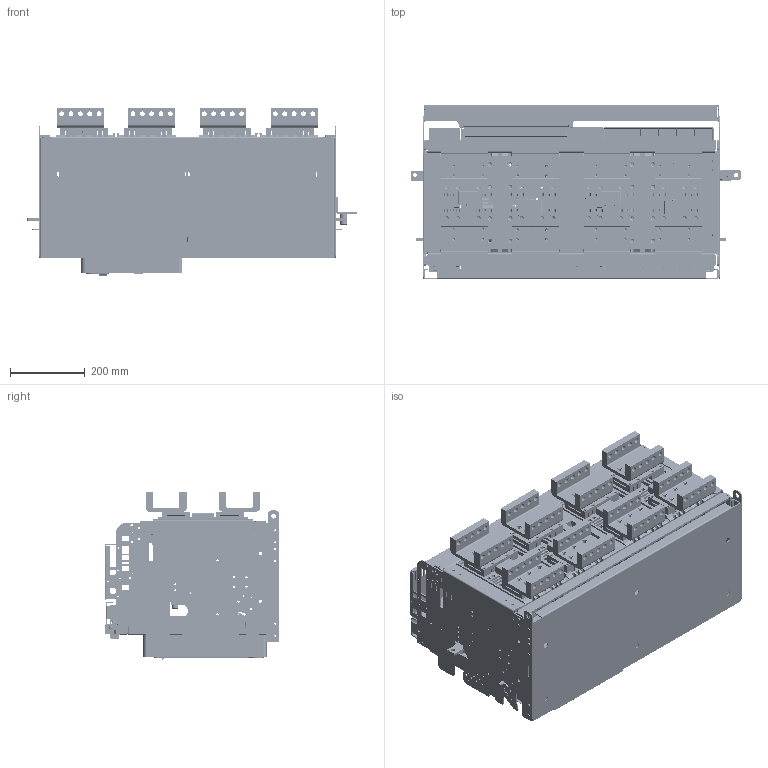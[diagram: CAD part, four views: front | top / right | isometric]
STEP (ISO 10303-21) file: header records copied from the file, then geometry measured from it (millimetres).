
FILE_DESCRIPTION((''),'2;1');
FILE_NAME('HG_21_C504H_ASM_ASM','2019-03-27T',('HHI'),(''),'PRO/ENGINEER BY PARAMETRIC TECHNOLOGY CORPORATION, 2012453','PRO/ENGINEER BY PARAMETRIC TECHNOLOGY CORPORATION, 2012453','');
FILE_SCHEMA(('CONFIG_CONTROL_DESIGN'));
Products named in the file (69): MAIN_SC_DR_BASE_5041_2; PRT0342; PRT0343; ASM0085_ASM; ASM0084_ASM; PRT0344; PRT0345; ASM0087_ASM; ASM0086_ASM; SUPPORTER_MOLD_DOWN_5041_2; PRT0346; SUPPORTER_MOLD_DOWN_ASM1_ASM_2__ASM; U_MAIN_TERMINAL_MOLD504_2; PRT0347; ASM_U_TERMINAL_MOLD_504_ASM_2_A_ASM; PRT0348; ISOL_TERMINAL_503_RT_504H_2; ASM_U_MAIN_TERMINAL_MOLD_504_AS_ASM; SUPPORTER_TERMINAL_MOLD_5041_2; SUPPORTER_TERMINAL_MOLD_WELD_4; SUPPORTER_TERMINALMOLD_ASM1_ASM_ASM; PRT0349; SC_CO_JACK_DFC_504_2; PRT0350; PRT0351; P_PH_SCREW_M5_16_2; S_WASHER_M5_2; WASHER_PLAIN_M5_2; ASM_SCREW_PH_PSW_M5_L16_ASM_2_A_ASM; PRT0352; P_PH_SCREW_M4_8_2; S_WASHER_M4_2; WASHER_PLAIN_M4_2; ASM_SCREW_PH_PSW_M4_L8_ASM_2_AS_ASM; SC_CONTROL_JACK_FIX_2; ASM_U_CONTROL_JACK_504_ASM_3_AS_ASM; JOINT_TERMINAL_504HL_1; JOINT_TERMINAL_504HR_1; U_ARC_SHIELD_504_1; PRT0353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
Assembly tree (157 placements, depth 7):
  HG_21_C504H_ASM_ASM
    C504H_ASM_4_ASM_ASM
      MAIN_SC_DR_BASE_5041_2
      ASM0084_ASM
        PRT0342
        ASM0085_ASM
          PRT0343
      ASM0086_ASM
        ASM0087_ASM
          PRT0344
          PRT0345
      SUPPORTER_MOLD_DOWN_ASM1_ASM_2__ASM
        SUPPORTER_MOLD_DOWN_5041_2
        PRT0346  x4
      ASM_U_MAIN_TERMINAL_MOLD_504_AS_ASM
        ASM_U_TERMINAL_MOLD_504_ASM_2_A_ASM  x2
          U_MAIN_TERMINAL_MOLD504_2
          PRT0347
        PRT0348  x32
        ISOL_TERMINAL_503_RT_504H_2  x8
      SUPPORTER_TERMINALMOLD_ASM1_ASM_ASM
        SUPPORTER_TERMINAL_MOLD_5041_2
        SUPPORTER_TERMINAL_MOLD_WELD_4  x4
      PRT0349
      ASM_U_CONTROL_JACK_504_ASM_3_AS_ASM
        SC_CO_JACK_DFC_504_2
        PRT0350
        PRT0351  x2
        ASM_SCREW_PH_PSW_M5_L16_ASM_2_A_ASM  x2
          P_PH_SCREW_M5_16_2
          S_WASHER_M5_2
          WASHER_PLAIN_M5_2
        PRT0352
        ASM_SCREW_PH_PSW_M4_L8_ASM_2_AS_ASM  x2
          P_PH_SCREW_M4_8_2
          S_WASHER_M4_2
          WASHER_PLAIN_M4_2
        SC_CONTROL_JACK_FIX_2
      JOINT_TERMINAL_504HL_1  x4
      JOINT_TERMINAL_504HR_1  x4
      U_ARC_SHIELD_504_1
      COVER504_ASSY_ASM_4_ASM_ASM
        COVER204_ASSY_ASM_22_ASM_ASM
          ASM0088_ASM
            PRT0353
            ASM0089_ASM
              PRT0355
              PRT0356
              PRT0357
              PRT0358
            ASM0090_ASM
              PRT0359
              PRT0360
              PRT0361
            PRT0364
          MAIN_SC-MAIN-FRONT-COVER-20N_14
        SC-MAIN-F-COVER-20N_4
        PRT0365
      ASM0091_ASM
        PRT0366
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Bounding box: 880.7 x 466.35 x 448.03 mm (x, y, z)
Volume: 13217504.7 mm3; surface area: 6444361.7 mm2
Topology: 178 solids, 195 shells, 20494 faces, 59947 edges, 39342 vertices
Faces by surface type: plane 14490, cylinder 4671, cone 595, torus 281, sphere 203, extrusion 175, bspline 79
Entity records: 529257 total; most frequent: CARTESIAN_POINT 99922, ORIENTED_EDGE 92194, DIRECTION 84825, EDGE_CURVE 46228, VECTOR 37867, LINE 37692, VERTEX_POINT 30477, AXIS2_PLACEMENT_3D 23479
